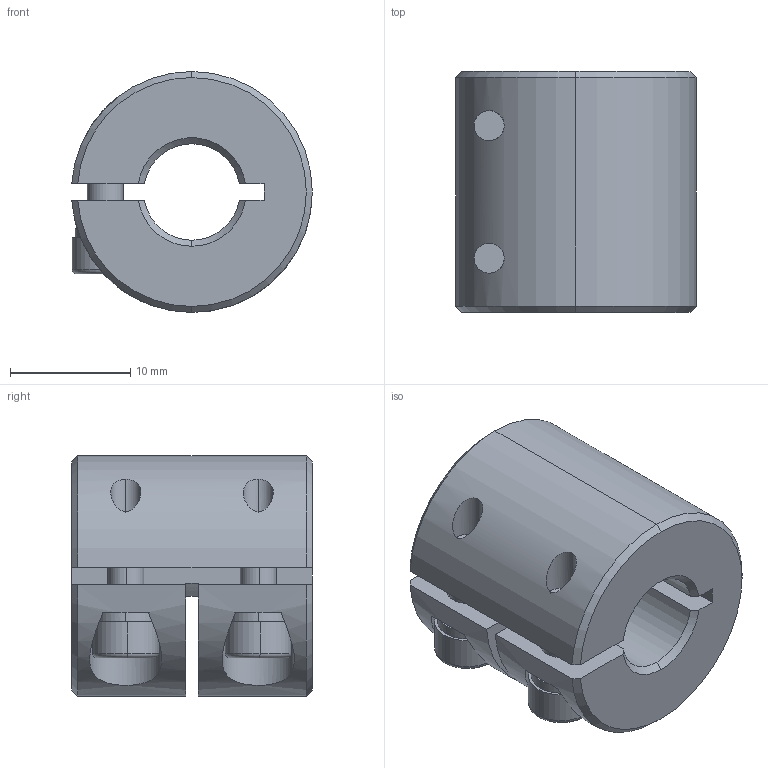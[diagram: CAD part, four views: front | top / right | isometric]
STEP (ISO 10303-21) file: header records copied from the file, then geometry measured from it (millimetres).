
FILE_DESCRIPTION (( 'STEP AP203' ), '1' );
FILE_NAME ('LL-B-D20L20-8-8.STEP', '2021-11-03T05:30:39', ( '' ), ( '' ), 'SwSTEP 2.0', 'SolidWorks 2018', '' );
FILE_SCHEMA (( 'CONFIG_CONTROL_DESIGN' ));
Length unit declared in the file: millimetre
Products named in the file (1): LL-B-D20L20-8-8
Bounding box: 19.98 x 20 x 20 mm (x, y, z)
Volume: 4842.3 mm3; surface area: 3104.4 mm2
Topology: 1 solids, 1 shells, 110 faces, 283 edges, 177 vertices
Faces by surface type: plane 51, cylinder 39, cone 16, torus 4
Entity records: 3593 total; most frequent: CARTESIAN_POINT 801, DIRECTION 594, ORIENTED_EDGE 558, EDGE_CURVE 279, AXIS2_PLACEMENT_3D 230, VERTEX_POINT 177, LINE 134, VECTOR 134
